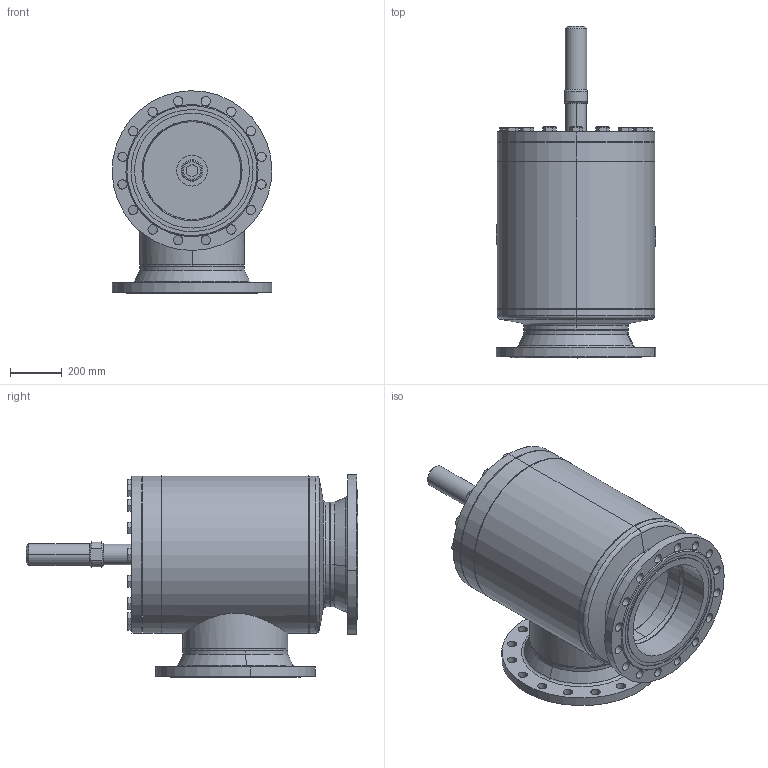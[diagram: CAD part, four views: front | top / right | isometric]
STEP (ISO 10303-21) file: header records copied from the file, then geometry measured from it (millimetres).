
FILE_DESCRIPTION (( 'STEP AP214' ), '1' );
FILE_NAME ('AVR26420C27-DN400_DIN-FL-N_PS25.STEP', '2006-04-28T08:44:50', ( 'Herr Grams' ), ( 'AWP GmbH' ), 'SwSTEP 2.0', 'SolidWorks 2002296', '' );
FILE_SCHEMA (( 'AUTOMOTIVE_DESIGN' ));
Length unit declared in the file: millimetre
Products named in the file (18): AVR26420C27-DN400_DIN-FL-N_PS25; Kappe26300_DN400geschw_Standard; AVR26300B27_Deck+Schr-DN400_Standard; Deckel-kpl26300-DN400_Standard; Scheibe f Deckel26300-DN400_Standard; Buchse1 f Deckel26300-DN400_Standard; bead-deck263-400_Standard; Sechskantschraube-DIN933_M30x 80; Gehäuse-kpl26420-DN400_DIN_PS25_Standard; Rohrstutzen-A26300-DN400_R1_Standard; Boden26300-DN400_Standard; Kopfstück26300-DN400_Standard; Gehäuse26300-DN400_Standard; bead-DN400-1_Standard; Flansch-DIN2634-Nut_PS25_DIN-Flansch-DN400_PS25-Nut; bead-DN400-4_Standard; bead-DN400-3_Standard; bead-DN400-2_Standard
Assembly tree (33 placements, depth 4):
  AVR26420C27-DN400_DIN-FL-N_PS25
    Gehäuse-kpl26420-DN400_DIN_PS25_Standard
      bead-DN400-1_Standard
      Boden26300-DN400_Standard
      Flansch-DIN2634-Nut_PS25_DIN-Flansch-DN400_PS25-Nut  x2
      Kopfstück26300-DN400_Standard
      bead-DN400-3_Standard
      bead-DN400-4_Standard
      Gehäuse26300-DN400_Standard
      bead-DN400-2_Standard
      Rohrstutzen-A26300-DN400_R1_Standard
    AVR26300B27_Deck+Schr-DN400_Standard
      Sechskantschraube-DIN933_M30x 80  x16
      Deckel-kpl26300-DN400_Standard
        bead-deck263-400_Standard
        Buchse1 f Deckel26300-DN400_Standard
        Scheibe f Deckel26300-DN400_Standard
    Kappe26300_DN400geschw_Standard
Bounding box: 619.85 x 1288 x 785.93 mm (x, y, z)
Volume: 73671818.6 mm3; surface area: 6616512.4 mm2
Topology: 30 solids, 30 shells, 685 faces, 1514 edges, 922 vertices
Faces by surface type: cone 260, cylinder 209, plane 192, bspline 16, torus 8
Entity records: 12439 total; most frequent: CARTESIAN_POINT 5489, DIRECTION 1364, ORIENTED_EDGE 1180, AXIS2_PLACEMENT_3D 593, EDGE_CURVE 590, VERTEX_POINT 378, EDGE_LOOP 358, CIRCLE 316
